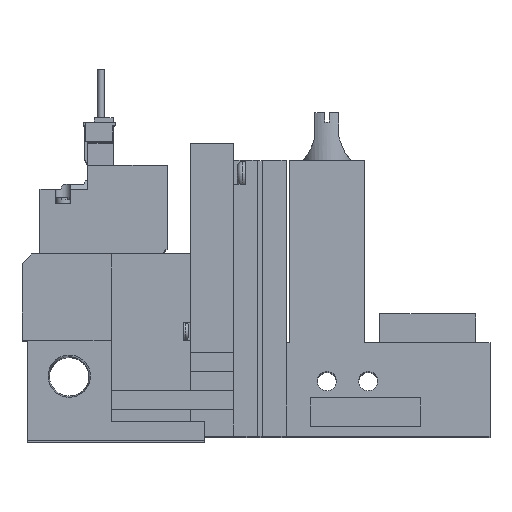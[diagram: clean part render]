
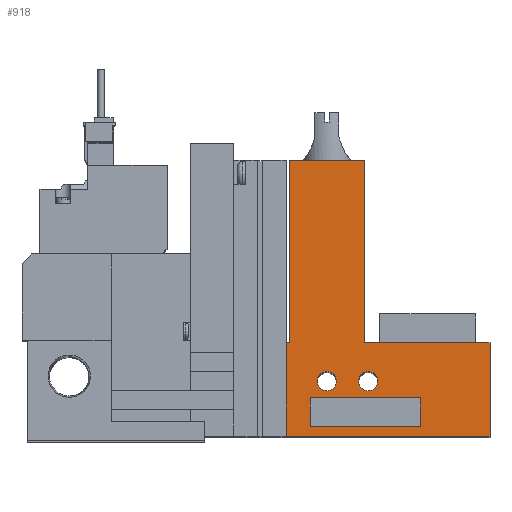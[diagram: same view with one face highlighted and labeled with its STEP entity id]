
A CAD part, top view. The second image highlights one B-rep face of the part: STEP entity #918.
In plain terms, the highlighted planar face has unit normal (0, 0, 1).
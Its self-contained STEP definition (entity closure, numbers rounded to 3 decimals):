
#918=ADVANCED_FACE('',(#1799,#1800,#1801,#1802),#1803,.T.);
#1799=FACE_BOUND('',#2971,.T.);
#1800=FACE_BOUND('',#2972,.T.);
#1801=FACE_BOUND('',#2973,.T.);
#1802=FACE_OUTER_BOUND('',#2974,.T.);
#1803=PLANE('',#2975);
#2971=EDGE_LOOP('',(#6220,#6221,#6222,#6223));
#2972=EDGE_LOOP('',(#6224));
#2973=EDGE_LOOP('',(#6225));
#2974=EDGE_LOOP('',(#6226,#6227,#6228,#6229,#6230,#6231,#6232,#6233));
#2975=AXIS2_PLACEMENT_3D('',#6234,#6235,#6236);
#6220=ORIENTED_EDGE('',*,*,#7981,.T.);
#6221=ORIENTED_EDGE('',*,*,#8089,.T.);
#6222=ORIENTED_EDGE('',*,*,#8066,.T.);
#6223=ORIENTED_EDGE('',*,*,#7999,.T.);
#6224=ORIENTED_EDGE('',*,*,#7985,.T.);
#6225=ORIENTED_EDGE('',*,*,#7989,.T.);
#6226=ORIENTED_EDGE('',*,*,#8128,.F.);
#6227=ORIENTED_EDGE('',*,*,#8105,.T.);
#6228=ORIENTED_EDGE('',*,*,#8061,.T.);
#6229=ORIENTED_EDGE('',*,*,#8013,.T.);
#6230=ORIENTED_EDGE('',*,*,#8126,.T.);
#6231=ORIENTED_EDGE('',*,*,#8146,.T.);
#6232=ORIENTED_EDGE('',*,*,#8134,.T.);
#6233=ORIENTED_EDGE('',*,*,#8163,.T.);
#6234=CARTESIAN_POINT('',(0.0,0.0,10.0));
#6235=DIRECTION('',(0.0,0.0,1.0));
#6236=DIRECTION('',(1.0,0.0,0.0));
#7981=EDGE_CURVE('',#9662,#9667,#9669,.T.);
#7985=EDGE_CURVE('',#9674,#9674,#9675,.T.);
#7989=EDGE_CURVE('',#9681,#9681,#9682,.T.);
#7999=EDGE_CURVE('',#9697,#9662,#9701,.T.);
#8013=EDGE_CURVE('',#9727,#9725,#9728,.T.);
#8061=EDGE_CURVE('',#9804,#9727,#9805,.T.);
#8066=EDGE_CURVE('',#9810,#9697,#9812,.T.);
#8089=EDGE_CURVE('',#9667,#9810,#9849,.T.);
#8105=EDGE_CURVE('',#9869,#9804,#9870,.T.);
#8126=EDGE_CURVE('',#9725,#9896,#9898,.T.);
#8128=EDGE_CURVE('',#9869,#9901,#9902,.T.);
#8134=EDGE_CURVE('',#9910,#9908,#9911,.T.);
#8146=EDGE_CURVE('',#9896,#9910,#9925,.T.);
#8163=EDGE_CURVE('',#9908,#9901,#9945,.T.);
#9662=VERTEX_POINT('',#12421);
#9667=VERTEX_POINT('',#12428);
#9669=LINE('',#12431,#12432);
#9674=VERTEX_POINT('',#12439);
#9675=CIRCLE('',#12440,2.0);
#9681=VERTEX_POINT('',#12448);
#9682=CIRCLE('',#12449,2.0);
#9697=VERTEX_POINT('',#12468);
#9701=LINE('',#12474,#12475);
#9725=VERTEX_POINT('',#12510);
#9727=VERTEX_POINT('',#12513);
#9728=LINE('',#12514,#12515);
#9804=VERTEX_POINT('',#12638);
#9805=LINE('',#12639,#12640);
#9810=VERTEX_POINT('',#12648);
#9812=LINE('',#12651,#12652);
#9849=LINE('',#12711,#12712);
#9869=VERTEX_POINT('',#12745);
#9870=LINE('',#12746,#12747);
#9896=VERTEX_POINT('',#12792);
#9898=LINE('',#12795,#12796);
#9901=VERTEX_POINT('',#12800);
#9902=LINE('',#12801,#12802);
#9908=VERTEX_POINT('',#12812);
#9910=VERTEX_POINT('',#12815);
#9911=LINE('',#12816,#12817);
#9925=LINE('',#12839,#12840);
#9945=LINE('',#12874,#12875);
#12421=CARTESIAN_POINT('',(60.1,2.0,10.0));
#12428=CARTESIAN_POINT('',(60.1,8.0,10.0));
#12431=CARTESIAN_POINT('',(60.1,0.0,10.0));
#12432=VECTOR('',#14722,1.0);
#12439=CARTESIAN_POINT('',(65.6,11.5,10.0));
#12440=AXIS2_PLACEMENT_3D('',#14728,#14729,#14730);
#12448=CARTESIAN_POINT('',(74.2,11.5,10.0));
#12449=AXIS2_PLACEMENT_3D('',#14736,#14737,#14738);
#12468=CARTESIAN_POINT('',(83.1,2.0,10.0));
#12474=CARTESIAN_POINT('',(0.0,2.0,10.0));
#12475=VECTOR('',#14754,1.0);
#12510=CARTESIAN_POINT('',(71.45,19.5,10.0));
#12513=CARTESIAN_POINT('',(97.6,19.5,10.0));
#12514=CARTESIAN_POINT('',(97.6,19.5,10.0));
#12515=VECTOR('',#14770,1.0);
#12638=CARTESIAN_POINT('',(97.6,0.0,10.0));
#12639=CARTESIAN_POINT('',(97.6,0.0,10.0));
#12640=VECTOR('',#14818,1.0);
#12648=CARTESIAN_POINT('',(83.1,8.0,10.0));
#12651=CARTESIAN_POINT('',(83.1,0.0,10.0));
#12652=VECTOR('',#14823,1.0);
#12711=CARTESIAN_POINT('',(0.0,8.0,10.0));
#12712=VECTOR('',#14846,1.0);
#12745=CARTESIAN_POINT('',(55.1,0.0,10.0));
#12746=CARTESIAN_POINT('',(18.6,0.0,10.0));
#12747=VECTOR('',#14863,1.0);
#12792=CARTESIAN_POINT('',(71.45,57.5,10.0));
#12795=CARTESIAN_POINT('',(71.45,19.5,10.0));
#12796=VECTOR('',#14884,1.0);
#12800=CARTESIAN_POINT('',(55.1,19.5,10.0));
#12801=CARTESIAN_POINT('',(55.1,0.0,10.0));
#12802=VECTOR('',#14886,1.0);
#12812=CARTESIAN_POINT('',(55.75,19.5,10.0));
#12815=CARTESIAN_POINT('',(55.75,57.5,10.0));
#12816=CARTESIAN_POINT('',(55.75,57.5,10.0));
#12817=VECTOR('',#14892,1.0);
#12839=CARTESIAN_POINT('',(71.45,57.5,10.0));
#12840=VECTOR('',#14910,1.0);
#12874=CARTESIAN_POINT('',(55.75,19.5,10.0));
#12875=VECTOR('',#14931,1.0);
#14722=DIRECTION('',(0.0,1.0,0.0));
#14728=CARTESIAN_POINT('',(63.6,11.5,10.0));
#14729=DIRECTION('',(0.0,0.0,-1.0));
#14730=DIRECTION('',(1.0,0.0,0.0));
#14736=CARTESIAN_POINT('',(72.2,11.5,10.0));
#14737=DIRECTION('',(0.0,0.0,-1.0));
#14738=DIRECTION('',(1.0,0.0,0.0));
#14754=DIRECTION('',(-1.0,0.0,0.0));
#14770=DIRECTION('',(-1.0,0.0,0.0));
#14818=DIRECTION('',(0.0,1.0,0.0));
#14823=DIRECTION('',(0.0,-1.0,0.0));
#14846=DIRECTION('',(1.0,0.0,0.0));
#14863=DIRECTION('',(1.0,0.0,0.0));
#14884=DIRECTION('',(0.0,1.0,0.0));
#14886=DIRECTION('',(0.0,1.0,0.0));
#14892=DIRECTION('',(0.0,-1.0,0.0));
#14910=DIRECTION('',(-1.0,0.0,0.0));
#14931=DIRECTION('',(-1.0,0.0,0.0));
